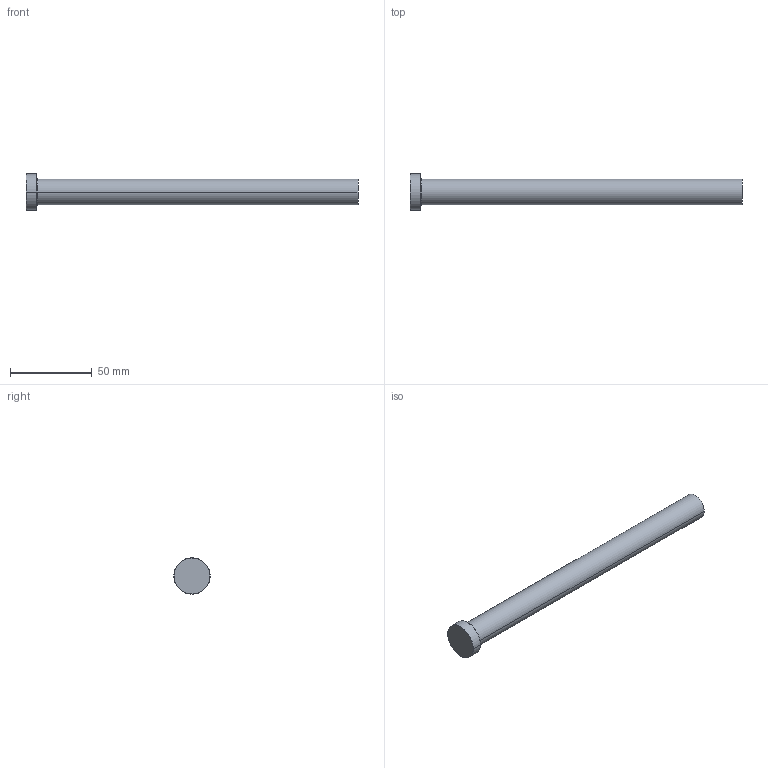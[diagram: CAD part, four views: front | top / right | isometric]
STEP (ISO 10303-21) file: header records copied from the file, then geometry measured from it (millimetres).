
FILE_DESCRIPTION (( 'STEP AP214' ), '1' );
FILE_NAME ('P37-8.STEP', '2020-03-12T12:05:53', ( '' ), ( '' ), 'SwSTEP 2.0', 'SolidWorks 2018', '' );
FILE_SCHEMA (( 'AUTOMOTIVE_DESIGN' ));
Length unit declared in the file: inch
Products named in the file (1): P37-8
Bounding box: 203.2 x 22.23 x 22.23 mm (x, y, z)
Volume: 41369.8 mm3; surface area: 11004.5 mm2
Topology: 1 solids, 1 shells, 13 faces, 24 edges, 14 vertices
Faces by surface type: cone 4, cylinder 4, plane 3, torus 2
Entity records: 366 total; most frequent: DIRECTION 68, CARTESIAN_POINT 52, ORIENTED_EDGE 48, AXIS2_PLACEMENT_3D 30, EDGE_CURVE 24, CIRCLE 16, EDGE_LOOP 14, VERTEX_POINT 14
